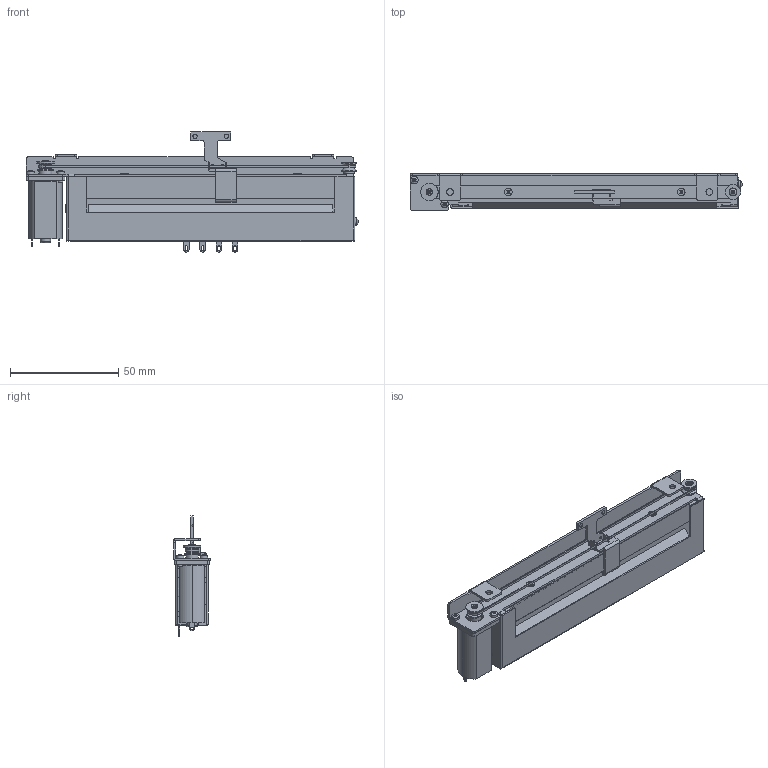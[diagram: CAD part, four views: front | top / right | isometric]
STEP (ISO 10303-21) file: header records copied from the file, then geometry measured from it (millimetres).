
FILE_DESCRIPTION(('FreeCAD Model'),'2;1');
FILE_NAME('Open CASCADE Shape Model','2024-03-05T11:32:36',(''),(''), 'Open CASCADE STEP processor 7.6','FreeCAD','Unknown');
FILE_SCHEMA(('AUTOMOTIVE_DESIGN { 1 0 10303 214 1 1 1 1 }'));
Length unit declared in the file: millimetre
Products named in the file (1): mf914-b-m8v-105
Bounding box: 153.67 x 17 x 55.6 mm (x, y, z)
Volume: 57613 mm3; surface area: 33024.8 mm2
Topology: 1 solids, 9 shells, 807 faces, 2057 edges, 1287 vertices
Faces by surface type: plane 548, cylinder 174, cone 47, bspline 18, torus 9, sphere 6, revolution 5
Full cylindrical faces by diameter (mm): 1.1 x2, 1.2 x6, 1.25 x2, 1.46 x1, 1.5 x3, 1.6 x2, 2 x17, 2.1 x1, 2.2 x7, 2.4 x2, 2.6 x3, 3 x4, 3.03 x1, 3.5 x4, 3.6 x2, 3.7 x1, 4 x6, 4.7 x2, 4.75 x1, 5 x1, 5.38 x1, 6 x1, 6.5 x1, 7 x3, 8 x1, 8.2 x1
Entity records: 52833 total; most frequent: CARTESIAN_POINT 12942, DIRECTION 7043, ORIENTED_EDGE 4110, PCURVE 4102, DEFINITIONAL_REPRESENTATION 4102, LINE 3892, VECTOR 3892, EDGE_CURVE 2051
